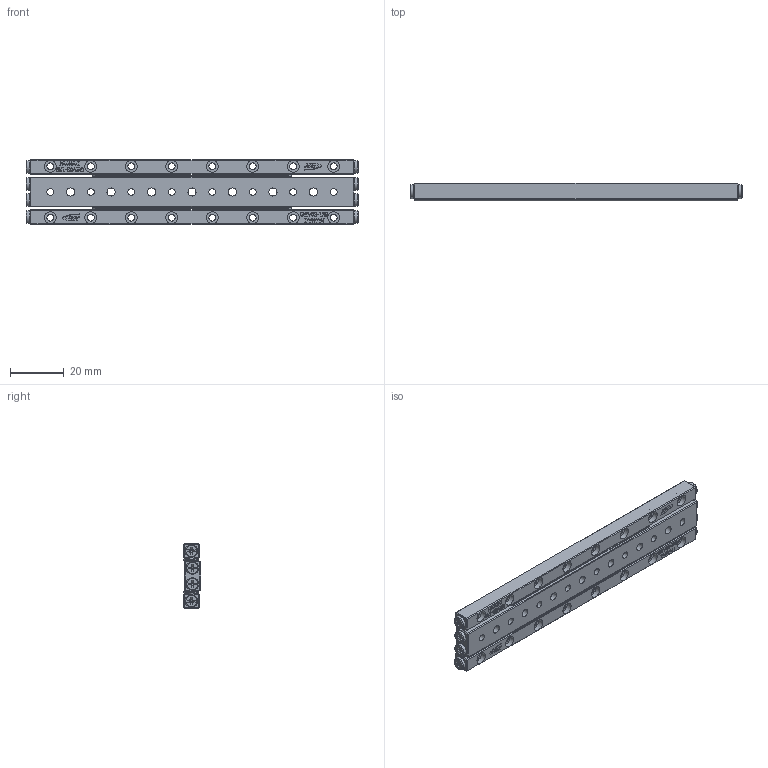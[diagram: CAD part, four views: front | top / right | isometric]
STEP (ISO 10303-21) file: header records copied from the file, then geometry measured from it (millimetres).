
FILE_DESCRIPTION (( 'STEP AP203' ), '1' );
FILE_NAME ('GRD02-120.STEP', '2023-09-11T08:30:11', ( '' ), ( '' ), 'SwSTEP 2.0', 'SolidWorks 2019', '' );
FILE_SCHEMA (( 'CONFIG_CONTROL_DESIGN' ));
Length unit declared in the file: millimetre
Products named in the file (4): GRV02-120-模糊化軌道; GRD02-120; GRD02-120-模糊化中軌; GRV02-120-模糊化保持器組
Assembly tree (5 placements, depth 2):
  GRD02-120
    GRD02-120-模糊化中軌
    GRV02-120-模糊化軌道  x2
    GRV02-120-模糊化保持器組  x2
Bounding box: 123 x 6.5 x 24 mm (x, y, z)
Volume: 14286.4 mm3; surface area: 14177.4 mm2
Topology: 5 solids, 5 shells, 2161 faces, 5503 edges, 3580 vertices
Faces by surface type: plane 1384, cylinder 443, bspline 174, torus 88, cone 72
Full cylindrical faces by diameter (mm): 2.55 x24, 3 x7, 4.4 x24, 4.7 x8
Entity records: 45403 total; most frequent: CARTESIAN_POINT 15825, ORIENTED_EDGE 6388, DIRECTION 5300, EDGE_CURVE 3194, VERTEX_POINT 2101, LINE 1988, VECTOR 1988, AXIS2_PLACEMENT_3D 1656
